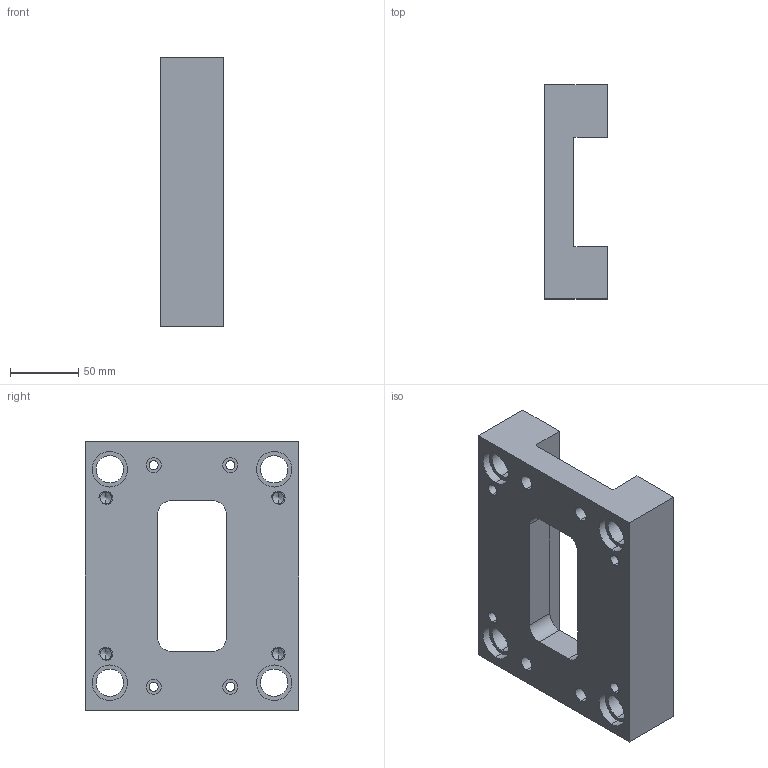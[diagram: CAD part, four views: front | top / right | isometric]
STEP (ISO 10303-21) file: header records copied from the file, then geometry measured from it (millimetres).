
FILE_DESCRIPTION (( 'STEP AP203' ), '1' );
FILE_NAME ('004 Plaque Porte Empreinte.STEP', '2021-10-27T18:19:26', ( '' ), ( '' ), 'SwSTEP 2.0', 'SolidWorks 2019', '' );
FILE_SCHEMA (( 'CONFIG_CONTROL_DESIGN' ));
Length unit declared in the file: millimetre
Products named in the file (1): 004 Plaque Porte Empreinte
Bounding box: 46 x 156 x 196 mm (x, y, z)
Volume: 801621.3 mm3; surface area: 119143.8 mm2
Topology: 1 solids, 1 shells, 212 faces, 529 edges, 334 vertices
Faces by surface type: cylinder 117, plane 69, bspline 26
Entity records: 6498 total; most frequent: CARTESIAN_POINT 1294, DIRECTION 1121, ORIENTED_EDGE 1026, EDGE_CURVE 513, AXIS2_PLACEMENT_3D 429, VERTEX_POINT 334, EDGE_LOOP 265, LINE 263
